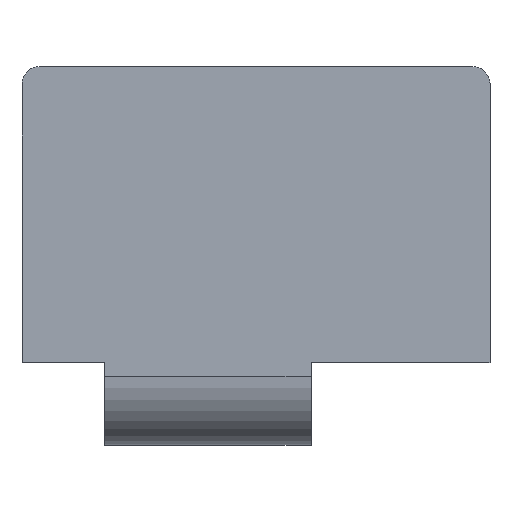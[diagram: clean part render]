
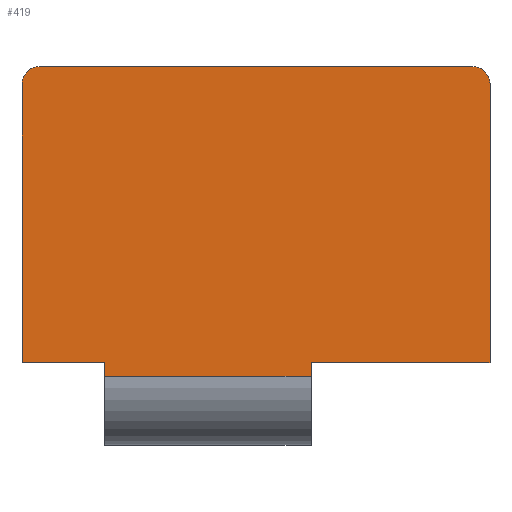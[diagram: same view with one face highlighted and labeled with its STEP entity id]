
A CAD part, top view. The second image highlights one B-rep face of the part: STEP entity #419.
In plain terms, the highlighted planar face has unit normal (0, 0, 1).
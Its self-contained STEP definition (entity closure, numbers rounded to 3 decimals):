
#15 = ORIENTED_EDGE ( 'NONE', *, *, #886, .F. ) ;
#48 = EDGE_CURVE ( 'NONE', #575, #1826, #357, .T. ) ;
#60 = VECTOR ( 'NONE', #1480, 1000. ) ;
#67 = CARTESIAN_POINT ( 'NONE',  ( 71., -20., 0. ) ) ;
#212 = VERTEX_POINT ( 'NONE', #942 ) ;
#248 = EDGE_CURVE ( 'NONE', #1960, #424, #1537, .T. ) ;
#279 = CIRCLE ( 'NONE', #1699, 2.5 ) ;
#283 = CARTESIAN_POINT ( 'NONE',  ( 45., -22., 0. ) ) ;
#304 = EDGE_CURVE ( 'NONE', #554, #329, #466, .T. ) ;
#305 = VECTOR ( 'NONE', #511, 1000. ) ;
#310 = CARTESIAN_POINT ( 'NONE',  ( 15., 23., 0. ) ) ;
#329 = VERTEX_POINT ( 'NONE', #1918 ) ;
#333 = CARTESIAN_POINT ( 'NONE',  ( 3., -20., 0. ) ) ;
#357 = CIRCLE ( 'NONE', #732, 2.5 ) ;
#366 = CARTESIAN_POINT ( 'NONE',  ( 5.5, 20.5, 0. ) ) ;
#412 = CARTESIAN_POINT ( 'NONE',  ( 71., 20.5, 0. ) ) ;
#417 = CARTESIAN_POINT ( 'NONE',  ( 45., -20., 0. ) ) ;
#419 = ADVANCED_FACE ( 'NONE', ( #820 ), #736, .F. ) ;
#424 = VERTEX_POINT ( 'NONE', #592 ) ;
#425 = CARTESIAN_POINT ( 'NONE',  ( 0., 0., 0. ) ) ;
#431 = LINE ( 'NONE', #1792, #60 ) ;
#466 = LINE ( 'NONE', #1783, #305 ) ;
#488 = LINE ( 'NONE', #283, #1345 ) ;
#498 = DIRECTION ( 'NONE',  ( 1., 0., 0. ) ) ;
#511 = DIRECTION ( 'NONE',  ( 0., -1., 0. ) ) ;
#518 = CARTESIAN_POINT ( 'NONE',  ( 5.5, 23., 0. ) ) ;
#526 = EDGE_CURVE ( 'NONE', #1315, #1826, #1343, .T. ) ;
#554 = VERTEX_POINT ( 'NONE', #417 ) ;
#570 = EDGE_CURVE ( 'NONE', #575, #1785, #1766, .T. ) ;
#575 = VERTEX_POINT ( 'NONE', #412 ) ;
#592 = CARTESIAN_POINT ( 'NONE',  ( 15., -20., 0. ) ) ;
#608 = ORIENTED_EDGE ( 'NONE', *, *, #248, .T. ) ;
#724 = VECTOR ( 'NONE', #982, 1000. ) ;
#732 = AXIS2_PLACEMENT_3D ( 'NONE', #1380, #939, #1839 ) ;
#736 = PLANE ( 'NONE',  #1908 ) ;
#770 = LINE ( 'NONE', #1604, #724 ) ;
#807 = VECTOR ( 'NONE', #1749, 1000. ) ;
#820 = FACE_OUTER_BOUND ( 'NONE', #1292, .T. ) ;
#886 = EDGE_CURVE ( 'NONE', #1960, #1408, #770, .T. ) ;
#904 = DIRECTION ( 'NONE',  ( 0., 0., -1. ) ) ;
#906 = CARTESIAN_POINT ( 'NONE',  ( 3., 20.5, 0. ) ) ;
#914 = CARTESIAN_POINT ( 'NONE',  ( 3., -20., 0. ) ) ;
#939 = DIRECTION ( 'NONE',  ( 0., 0., 1. ) ) ;
#942 = CARTESIAN_POINT ( 'NONE',  ( 15., -22., 0. ) ) ;
#959 = DIRECTION ( 'NONE',  ( 0., 0., 1. ) ) ;
#982 = DIRECTION ( 'NONE',  ( 0., 1., 0. ) ) ;
#997 = ORIENTED_EDGE ( 'NONE', *, *, #1517, .F. ) ;
#1037 = ORIENTED_EDGE ( 'NONE', *, *, #570, .F. ) ;
#1053 = DIRECTION ( 'NONE',  ( -1., 0., 0. ) ) ;
#1056 = VECTOR ( 'NONE', #498, 1000. ) ;
#1135 = CARTESIAN_POINT ( 'NONE',  ( 71., -20., 0. ) ) ;
#1138 = ORIENTED_EDGE ( 'NONE', *, *, #48, .T. ) ;
#1146 = EDGE_CURVE ( 'NONE', #212, #329, #488, .T. ) ;
#1170 = DIRECTION ( 'NONE',  ( 1., 0., 0. ) ) ;
#1186 = VECTOR ( 'NONE', #1170, 1000. ) ;
#1211 = EDGE_CURVE ( 'NONE', #212, #424, #431, .T. ) ;
#1216 = LINE ( 'NONE', #67, #807 ) ;
#1218 = ORIENTED_EDGE ( 'NONE', *, *, #1146, .T. ) ;
#1229 = CARTESIAN_POINT ( 'NONE',  ( 68.5, 23., 0. ) ) ;
#1292 = EDGE_LOOP ( 'NONE', ( #1420, #1549, #15, #608, #1474, #1218, #1650, #997, #1037, #1138 ) ) ;
#1315 = VERTEX_POINT ( 'NONE', #518 ) ;
#1343 = LINE ( 'NONE', #310, #1186 ) ;
#1345 = VECTOR ( 'NONE', #1944, 1000. ) ;
#1361 = EDGE_CURVE ( 'NONE', #1315, #1408, #279, .T. ) ;
#1380 = CARTESIAN_POINT ( 'NONE',  ( 68.5, 20.5, 0. ) ) ;
#1408 = VERTEX_POINT ( 'NONE', #906 ) ;
#1420 = ORIENTED_EDGE ( 'NONE', *, *, #526, .F. ) ;
#1474 = ORIENTED_EDGE ( 'NONE', *, *, #1211, .F. ) ;
#1480 = DIRECTION ( 'NONE',  ( 0., 1., 0. ) ) ;
#1517 = EDGE_CURVE ( 'NONE', #1785, #554, #1216, .T. ) ;
#1537 = LINE ( 'NONE', #333, #1056 ) ;
#1549 = ORIENTED_EDGE ( 'NONE', *, *, #1361, .T. ) ;
#1581 = DIRECTION ( 'NONE',  ( -1., 0., 0. ) ) ;
#1604 = CARTESIAN_POINT ( 'NONE',  ( 3., 23., 0. ) ) ;
#1650 = ORIENTED_EDGE ( 'NONE', *, *, #304, .F. ) ;
#1699 = AXIS2_PLACEMENT_3D ( 'NONE', #366, #959, #1581 ) ;
#1749 = DIRECTION ( 'NONE',  ( -1., 0., 0. ) ) ;
#1766 = LINE ( 'NONE', #1784, #1898 ) ;
#1769 = DIRECTION ( 'NONE',  ( 0., -1., 0. ) ) ;
#1783 = CARTESIAN_POINT ( 'NONE',  ( 45., 23., 0. ) ) ;
#1784 = CARTESIAN_POINT ( 'NONE',  ( 71., -20., 0. ) ) ;
#1785 = VERTEX_POINT ( 'NONE', #1135 ) ;
#1792 = CARTESIAN_POINT ( 'NONE',  ( 15., -32., 0. ) ) ;
#1826 = VERTEX_POINT ( 'NONE', #1229 ) ;
#1839 = DIRECTION ( 'NONE',  ( -1., 0., 0. ) ) ;
#1898 = VECTOR ( 'NONE', #1769, 1000. ) ;
#1908 = AXIS2_PLACEMENT_3D ( 'NONE', #425, #904, #1053 ) ;
#1918 = CARTESIAN_POINT ( 'NONE',  ( 45., -22., 0. ) ) ;
#1944 = DIRECTION ( 'NONE',  ( 1., 0., 0. ) ) ;
#1960 = VERTEX_POINT ( 'NONE', #914 ) ;
